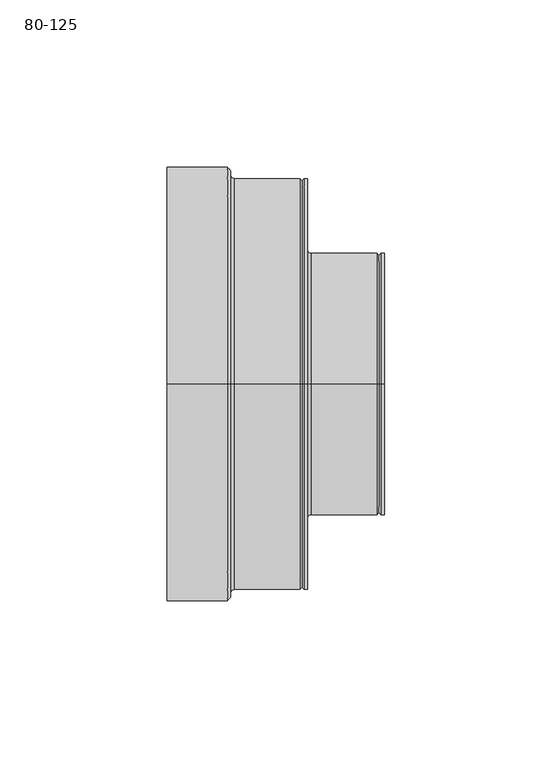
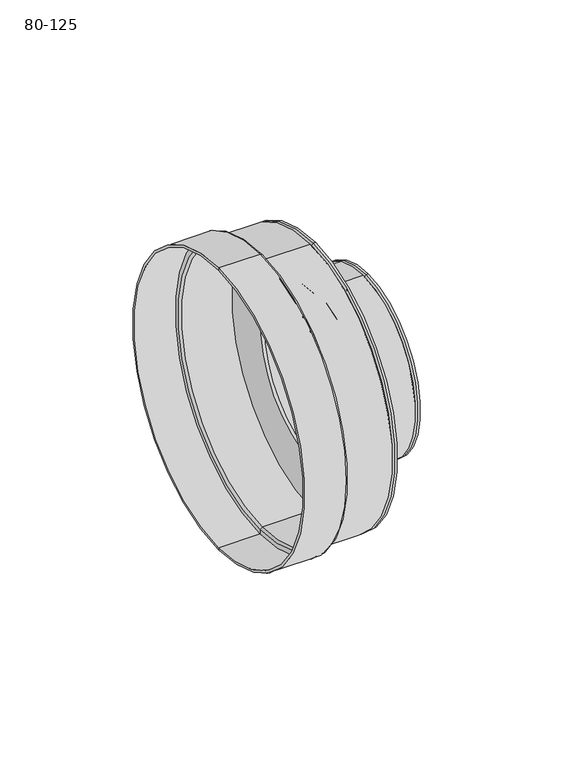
"""IFC4 building model written with IfcOpenShell, lengths in millimetres: duct fitting geometry, Renson_Healthbox 3_Reducer_Round_Adapter 80-125 : 80-125."""

from ifc_helpers import new_model, si_unit, point, frame, origin, place, context, project, spatial, polyline, circle_curve, ellipse_curve, trimmed, source, transform, mapped, element, save
from ifc_brep_helpers import plane_surface, cylinder_surface, revolved_surface, advanced_brep


def duct_fitting_80_125_7c03a684(model_context):
    return source(origin(), model_context, "Body", "AdvancedBrep", [
        advanced_brep(
        [(42.0, 0.0, 40.25), (42.0, 0.0, -40.25), (42.0, 0.0, -61.75), (42.0, 0.0, 61.75), (43.0, 0.0, 39.25), (43.0, 0.0, -39.25), (62.7977717, 0.0, 39.25), (62.7977717, 0.0, -39.25), (63.2928932, 0.0, 38.5428932), (63.2928932, 0.0, -38.5428932), (64.0, 0.0, 39.25), (64.0, 0.0, -39.25), (65.0, 0.0, 39.25), (65.0, 0.0, -39.25), (65.0, 0.0, 38.25), (65.0, 0.0, -38.25), (42.0, 0.0, 38.25), (42.0, 0.0, -38.25), (41.0, 0.0, 39.25), (41.0, 0.0, -39.25), (41.0, 0.0, 60.75), (41.0, 0.0, -60.75), (19.0, 0.0, 60.75), (19.0, 0.0, -60.75), (18.0, 0.0, 61.75), (18.0, 0.0, -61.75), (18.0, 0.0, 63.75), (18.0, 0.0, -63.75), (0.0, 0.0, 63.75), (0.0, 0.0, -63.75), (0.0, 0.0, 64.75), (0.0, 0.0, -64.75), (18.0, 0.0, 64.75), (18.0, 0.0, -64.75), (19.0, 0.0, 63.75), (19.0, 0.0, -63.75), (19.0, 0.0, 62.75), (19.0, 0.0, -62.75), (20.0, 0.0, 61.75), (20.0, 0.0, -61.75), (39.7977717, 0.0, 61.75), (39.7977717, 0.0, -61.75), (40.2928932, 0.0, 61.0428932), (40.2928932, 0.0, -61.0428932), (41.0, 0.0, 61.75), (41.0, 0.0, -61.75)],
        [
            (0, 1, circle_curve(frame((42.0, 0.0, 0.0), z_axis=(-1.0, 0.0, 0.0), x_axis=(0.0, 0.0, -1.0)), 40.25)),
            (1, 2),
            (2, 3, circle_curve(frame((42.0, 0.0, 0.0), z_axis=(1.0, 0.0, 0.0), x_axis=(0.0, 0.0, -1.0)), 61.75)),
            (3, 0),
            (1, 0, circle_curve(frame((42.0, 0.0, 0.0), z_axis=(-1.0, 0.0, 0.0), x_axis=(0.0, 0.0, -1.0)), 40.25)),
            (3, 2, circle_curve(frame((42.0, 0.0, 0.0), z_axis=(1.0, 0.0, 0.0), x_axis=(0.0, 0.0, -1.0)), 61.75)),
            (4, 5, circle_curve(frame((43.0, 0.0, 0.0), z_axis=(-1.0, 0.0, 0.0), x_axis=(0.0, 0.0, -1.0)), 39.25)),
            (5, 1, circle_curve(frame((43.0, 0.0, -40.25), z_axis=(0.0, -1.0, 0.0), x_axis=(-1.0, 0.0, 0.0)), 1.0)),
            (0, 4, circle_curve(frame((43.0, 0.0, 40.25), z_axis=(0.0, -1.0, 0.0), x_axis=(-1.0, 0.0, 0.0)), 1.0)),
            (5, 4, circle_curve(frame((43.0, 0.0, 0.0), z_axis=(-1.0, 0.0, 0.0), x_axis=(0.0, 0.0, -1.0)), 39.25)),
            (6, 7, circle_curve(frame((62.7977717, 0.0, 0.0), z_axis=(-1.0, 0.0, 0.0), x_axis=(0.0, 0.0, -1.0)), 39.25)),
            (7, 5),
            (4, 6),
            (7, 6, circle_curve(frame((62.7977717, 0.0, 0.0), z_axis=(-1.0, 0.0, 0.0), x_axis=(0.0, 0.0, -1.0)), 39.25)),
            (8, 9, circle_curve(frame((63.2928932, 0.0, 0.0), z_axis=(-1.0, 0.0, 0.0), x_axis=(0.0, 0.0, -1.0)), 38.5428932)),
            (9, 7),
            (6, 8),
            (9, 8, circle_curve(frame((63.2928932, 0.0, 0.0), z_axis=(-1.0, 0.0, 0.0), x_axis=(0.0, 0.0, -1.0)), 38.5428932)),
            (10, 11, circle_curve(frame((64.0, 0.0, 0.0), z_axis=(-1.0, 0.0, 0.0), x_axis=(0.0, 0.0, -1.0)), 39.25)),
            (11, 9),
            (8, 10),
            (11, 10, circle_curve(frame((64.0, 0.0, 0.0), z_axis=(-1.0, 0.0, 0.0), x_axis=(0.0, 0.0, -1.0)), 39.25)),
            (12, 13, circle_curve(frame((65.0, 0.0, 0.0), z_axis=(-1.0, 0.0, 0.0), x_axis=(0.0, 0.0, -1.0)), 39.25)),
            (13, 11),
            (10, 12),
            (13, 12, circle_curve(frame((65.0, 0.0, 0.0), z_axis=(-1.0, 0.0, 0.0), x_axis=(0.0, 0.0, -1.0)), 39.25)),
            (14, 15, circle_curve(frame((65.0, 0.0, 0.0), z_axis=(-1.0, 0.0, 0.0), x_axis=(0.0, 0.0, -1.0)), 38.25)),
            (15, 13),
            (12, 14),
            (15, 14, circle_curve(frame((65.0, 0.0, 0.0), z_axis=(-1.0, 0.0, 0.0), x_axis=(0.0, 0.0, -1.0)), 38.25)),
            (16, 17, circle_curve(frame((42.0, 0.0, 0.0), z_axis=(-1.0, 0.0, 0.0), x_axis=(0.0, 0.0, -1.0)), 38.25)),
            (17, 15),
            (14, 16),
            (17, 16, circle_curve(frame((42.0, 0.0, 0.0), z_axis=(-1.0, 0.0, 0.0), x_axis=(0.0, 0.0, -1.0)), 38.25)),
            (18, 19, circle_curve(frame((41.0, 0.0, 0.0), z_axis=(-1.0, 0.0, 0.0), x_axis=(0.0, 0.0, -1.0)), 39.25)),
            (19, 17, circle_curve(frame((42.0, 0.0, -39.25), z_axis=(0.0, 1.0, 0.0), x_axis=(-1.0, 0.0, 0.0)), 1.0)),
            (16, 18, circle_curve(frame((42.0, 0.0, 39.25), z_axis=(0.0, 1.0, 0.0), x_axis=(-1.0, 0.0, 0.0)), 1.0)),
            (19, 18, circle_curve(frame((41.0, 0.0, 0.0), z_axis=(-1.0, 0.0, 0.0), x_axis=(0.0, 0.0, -1.0)), 39.25)),
            (20, 21, circle_curve(frame((41.0, 0.0, 0.0), z_axis=(-1.0, 0.0, 0.0), x_axis=(0.0, 0.0, -1.0)), 60.75)),
            (21, 19),
            (18, 20),
            (21, 20, circle_curve(frame((41.0, 0.0, 0.0), z_axis=(-1.0, 0.0, 0.0), x_axis=(0.0, 0.0, -1.0)), 60.75)),
            (22, 23, circle_curve(frame((19.0, 0.0, 0.0), z_axis=(-1.0, 0.0, 0.0), x_axis=(0.0, 0.0, -1.0)), 60.75)),
            (23, 21),
            (20, 22),
            (23, 22, circle_curve(frame((19.0, 0.0, 0.0), z_axis=(-1.0, 0.0, 0.0), x_axis=(0.0, 0.0, -1.0)), 60.75)),
            (24, 25, circle_curve(frame((18.0, 0.0, 0.0), z_axis=(-1.0, 0.0, 0.0), x_axis=(0.0, 0.0, -1.0)), 61.75)),
            (25, 23),
            (22, 24),
            (25, 24, circle_curve(frame((18.0, 0.0, 0.0), z_axis=(-1.0, 0.0, 0.0), x_axis=(0.0, 0.0, -1.0)), 61.75)),
            (26, 27, circle_curve(frame((18.0, 0.0, 0.0), z_axis=(-1.0, 0.0, 0.0), x_axis=(0.0, 0.0, -1.0)), 63.75)),
            (27, 25),
            (24, 26),
            (27, 26, circle_curve(frame((18.0, 0.0, 0.0), z_axis=(-1.0, 0.0, 0.0), x_axis=(0.0, 0.0, -1.0)), 63.75)),
            (28, 29, circle_curve(frame((0.0, 0.0, 0.0), z_axis=(-1.0, 0.0, 0.0), x_axis=(0.0, 0.0, -1.0)), 63.75)),
            (29, 27),
            (26, 28),
            (29, 28, circle_curve(frame((0.0, 0.0, 0.0), z_axis=(-1.0, 0.0, 0.0), x_axis=(0.0, 0.0, -1.0)), 63.75)),
            (30, 31, circle_curve(frame((0.0, 0.0, 0.0), z_axis=(-1.0, 0.0, 0.0), x_axis=(0.0, 0.0, -1.0)), 64.75)),
            (31, 29),
            (28, 30),
            (31, 30, circle_curve(frame((0.0, 0.0, 0.0), z_axis=(-1.0, 0.0, 0.0), x_axis=(0.0, 0.0, -1.0)), 64.75)),
            (32, 33, circle_curve(frame((18.0, 0.0, 0.0), z_axis=(-1.0, 0.0, 0.0), x_axis=(0.0, 0.0, -1.0)), 64.75)),
            (33, 31),
            (30, 32),
            (33, 32, circle_curve(frame((18.0, 0.0, 0.0), z_axis=(-1.0, 0.0, 0.0), x_axis=(0.0, 0.0, -1.0)), 64.75)),
            (34, 35, circle_curve(frame((19.0, 0.0, 0.0), z_axis=(-1.0, 0.0, 0.0), x_axis=(0.0, 0.0, -1.0)), 63.75)),
            (35, 33, circle_curve(frame((18.0, 0.0, -63.75), z_axis=(0.0, 1.0, 0.0), x_axis=(-1.0, 0.0, 0.0)), 1.0)),
            (32, 34, circle_curve(frame((18.0, 0.0, 63.75), z_axis=(0.0, 1.0, 0.0), x_axis=(-1.0, 0.0, 0.0)), 1.0)),
            (35, 34, circle_curve(frame((19.0, 0.0, 0.0), z_axis=(-1.0, 0.0, 0.0), x_axis=(0.0, 0.0, -1.0)), 63.75)),
            (36, 37, circle_curve(frame((19.0, 0.0, 0.0), z_axis=(-1.0, 0.0, 0.0), x_axis=(0.0, 0.0, -1.0)), 62.75)),
            (37, 35),
            (34, 36),
            (37, 36, circle_curve(frame((19.0, 0.0, 0.0), z_axis=(-1.0, 0.0, 0.0), x_axis=(0.0, 0.0, -1.0)), 62.75)),
            (38, 39, circle_curve(frame((20.0, 0.0, 0.0), z_axis=(-1.0, 0.0, 0.0), x_axis=(0.0, 0.0, -1.0)), 61.75)),
            (39, 37, circle_curve(frame((20.0, 0.0, -62.75), z_axis=(0.0, -1.0, 0.0), x_axis=(-1.0, 0.0, 0.0)), 1.0)),
            (36, 38, circle_curve(frame((20.0, 0.0, 62.75), z_axis=(0.0, -1.0, 0.0), x_axis=(-1.0, 0.0, 0.0)), 1.0)),
            (39, 38, circle_curve(frame((20.0, 0.0, 0.0), z_axis=(-1.0, 0.0, 0.0), x_axis=(0.0, 0.0, -1.0)), 61.75)),
            (40, 41, circle_curve(frame((39.7977717, 0.0, 0.0), z_axis=(-1.0, 0.0, 0.0), x_axis=(0.0, 0.0, -1.0)), 61.75)),
            (41, 39),
            (38, 40),
            (41, 40, circle_curve(frame((39.7977717, 0.0, 0.0), z_axis=(-1.0, 0.0, 0.0), x_axis=(0.0, 0.0, -1.0)), 61.75)),
            (42, 43, circle_curve(frame((40.2928932, 0.0, 0.0), z_axis=(-1.0, 0.0, 0.0), x_axis=(0.0, 0.0, -1.0)), 61.0428932)),
            (43, 41),
            (40, 42),
            (43, 42, circle_curve(frame((40.2928932, 0.0, 0.0), z_axis=(-1.0, 0.0, 0.0), x_axis=(0.0, 0.0, -1.0)), 61.0428932)),
            (44, 45, circle_curve(frame((41.0, 0.0, 0.0), z_axis=(-1.0, 0.0, 0.0), x_axis=(0.0, 0.0, -1.0)), 61.75)),
            (45, 43),
            (42, 44),
            (45, 44, circle_curve(frame((41.0, 0.0, 0.0), z_axis=(-1.0, 0.0, 0.0), x_axis=(0.0, 0.0, -1.0)), 61.75)),
            (2, 45),
            (44, 3),
        ],
        [
            plane_surface(frame((42.0, 0.0, 0.0), z_axis=(1.0, 0.0, 0.0), x_axis=(0.0, 0.0, -1.0))),
            revolved_surface(trimmed(ellipse_curve(frame((43.0, 0.0, -40.25), z_axis=(0.0, 1.0, 0.0), x_axis=(-1.0, 0.0, 0.0)), 1.0, 1.0), [point((42.0, 0.0, -40.25))], [point((43.0, 0.0, -39.25))], True, "CARTESIAN"), (75.0, 0.0, 0.0), (1.0, 0.0, 0.0)),
            cylinder_surface(frame((75.0, 0.0, 0.0), z_axis=(1.0, 0.0, 0.0), x_axis=(0.0, 0.0, -1.0)), 39.25),
            revolved_surface(polyline([(62.7977717, 0.0, -39.25), (63.2928932, 0.0, -38.5428932)]), (75.0, 0.0, 0.0), (1.0, 0.0, 0.0)),
            revolved_surface(polyline([(63.2928932, 0.0, -38.5428932), (64.0, 0.0, -39.25)]), (75.0, 0.0, 0.0), (1.0, 0.0, 0.0)),
            plane_surface(frame((65.0, 0.0, 0.0), z_axis=(1.0, 0.0, 0.0), x_axis=(0.0, 0.0, -1.0))),
            revolved_surface(polyline([(65.0, 0.0, -38.25), (42.0, 0.0, -38.25)]), (75.0, 0.0, 0.0), (1.0, 0.0, 0.0)),
            revolved_surface(trimmed(ellipse_curve(frame((42.0, 0.0, -39.25), z_axis=(0.0, -1.0, 0.0), x_axis=(-1.0, 0.0, 0.0)), 1.0, 1.0), [point((42.0, 0.0, -38.25))], [point((41.0, 0.0, -39.25))], True, "CARTESIAN"), (75.0, 0.0, 0.0), (1.0, 0.0, 0.0)),
            plane_surface(frame((41.0, 0.0, 0.0), z_axis=(-1.0, 0.0, 0.0), x_axis=(0.0, 0.0, -1.0))),
            revolved_surface(polyline([(41.0, 0.0, -60.75), (19.0, 0.0, -60.75)]), (75.0, 0.0, 0.0), (1.0, 0.0, 0.0)),
            revolved_surface(polyline([(19.0, 0.0, -60.75), (18.0, 0.0, -61.75)]), (75.0, 0.0, 0.0), (1.0, 0.0, 0.0)),
            plane_surface(frame((18.0, 0.0, 0.0), z_axis=(-1.0, 0.0, 0.0), x_axis=(0.0, 0.0, -1.0))),
            revolved_surface(polyline([(18.0, 0.0, -63.75), (0.0, 0.0, -63.75)]), (75.0, 0.0, 0.0), (1.0, 0.0, 0.0)),
            plane_surface(frame((0.0, 0.0, 0.0), z_axis=(-1.0, 0.0, 0.0), x_axis=(0.0, 0.0, -1.0))),
            cylinder_surface(frame((75.0, 0.0, 0.0), z_axis=(1.0, 0.0, 0.0), x_axis=(0.0, 0.0, -1.0)), 64.75),
            revolved_surface(trimmed(ellipse_curve(frame((18.0, 0.0, -63.75), z_axis=(0.0, -1.0, 0.0), x_axis=(-1.0, 0.0, 0.0)), 1.0, 1.0), [point((18.0, 0.0, -64.75))], [point((19.0, 0.0, -63.75))], True, "CARTESIAN"), (75.0, 0.0, 0.0), (1.0, 0.0, 0.0)),
            plane_surface(frame((19.0, 0.0, 0.0), z_axis=(1.0, 0.0, 0.0), x_axis=(0.0, 0.0, -1.0))),
            revolved_surface(trimmed(ellipse_curve(frame((20.0, 0.0, -62.75), z_axis=(0.0, 1.0, 0.0), x_axis=(-1.0, 0.0, 0.0)), 1.0, 1.0), [point((19.0, 0.0, -62.75))], [point((20.0, 0.0, -61.75))], True, "CARTESIAN"), (75.0, 0.0, 0.0), (1.0, 0.0, 0.0)),
            cylinder_surface(frame((75.0, 0.0, 0.0), z_axis=(1.0, 0.0, 0.0), x_axis=(0.0, 0.0, -1.0)), 61.75),
            revolved_surface(polyline([(39.7977717, 0.0, -61.75), (40.2928932, 0.0, -61.0428932)]), (75.0, 0.0, 0.0), (1.0, 0.0, 0.0)),
            revolved_surface(polyline([(40.2928932, 0.0, -61.0428932), (41.0, 0.0, -61.75)]), (75.0, 0.0, 0.0), (1.0, 0.0, 0.0)),
        ],
        [
            (0, [[1, 2, 3, 4]]),
            (0, [[5, -4, 6, -2]]),
            (1, [[7, 8, -1, 9]]),
            (1, [[10, -9, -5, -8]]),
            (2, [[11, 12, -7, 13]]),
            (2, [[14, -13, -10, -12]]),
            (3, [[15, 16, -11, 17]]),
            (3, [[18, -17, -14, -16]]),
            (4, [[19, 20, -15, 21]]),
            (4, [[22, -21, -18, -20]]),
            (2, [[23, 24, -19, 25]]),
            (2, [[26, -25, -22, -24]]),
            (5, [[27, 28, -23, 29]]),
            (5, [[30, -29, -26, -28]]),
            (6, [[31, 32, -27, 33]]),
            (6, [[34, -33, -30, -32]]),
            (7, [[35, 36, -31, 37]]),
            (7, [[38, -37, -34, -36]]),
            (8, [[39, 40, -35, 41]]),
            (8, [[42, -41, -38, -40]]),
            (9, [[43, 44, -39, 45]]),
            (9, [[46, -45, -42, -44]]),
            (10, [[47, 48, -43, 49]]),
            (10, [[50, -49, -46, -48]]),
            (11, [[51, 52, -47, 53]]),
            (11, [[54, -53, -50, -52]]),
            (12, [[55, 56, -51, 57]]),
            (12, [[58, -57, -54, -56]]),
            (13, [[59, 60, -55, 61]]),
            (13, [[62, -61, -58, -60]]),
            (14, [[63, 64, -59, 65]]),
            (14, [[66, -65, -62, -64]]),
            (15, [[67, 68, -63, 69]]),
            (15, [[70, -69, -66, -68]]),
            (16, [[71, 72, -67, 73]]),
            (16, [[74, -73, -70, -72]]),
            (17, [[75, 76, -71, 77]]),
            (17, [[78, -77, -74, -76]]),
            (18, [[79, 80, -75, 81]]),
            (18, [[82, -81, -78, -80]]),
            (19, [[83, 84, -79, 85]]),
            (19, [[86, -85, -82, -84]]),
            (20, [[87, 88, -83, 89]]),
            (20, [[90, -89, -86, -88]]),
            (18, [[-3, 91, -87, 92]]),
            (18, [[-6, -92, -90, -91]]),
        ],
    ),
    ])


if __name__ == "__main__":
    model = new_model("IFC4")
    model_context = context("Model", 3, world=origin())
    ifc_project = project(units=[si_unit("LENGTHUNIT", "METRE", prefix="MILLI")], contexts=[model_context])
    site = spatial("IfcSite", under=ifc_project)
    building = spatial("IfcBuilding", under=site)
    placement = place(None, origin())
    duct_fitting_80_125_shape = duct_fitting_80_125_7c03a684(model_context)
    element("IfcDuctFitting", 1, ObjectType="Renson_Healthbox 3_Reducer_Round_Adapter 80-125 : 80-125", at=placement, inside=building, context=model_context, shape_type="MappedRepresentation", body=[
        mapped(duct_fitting_80_125_shape, transform((0.0, 0.0, 0.0), x_axis=(1.0, 0.0, 0.0), y_axis=(0.0, 1.0, 0.0), z_axis=(0.0, 0.0, 1.0))),
    ])
    save(model, "model.ifc")
